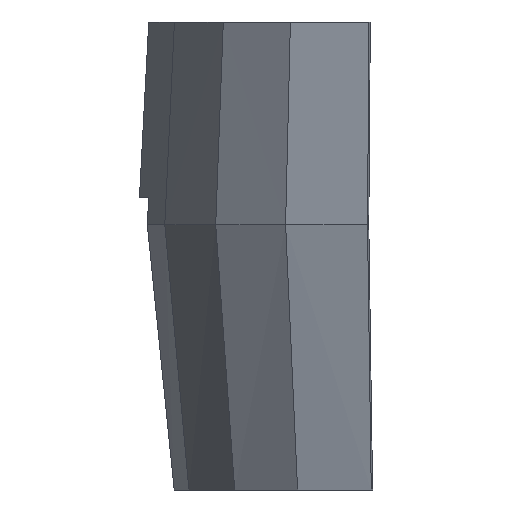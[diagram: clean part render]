
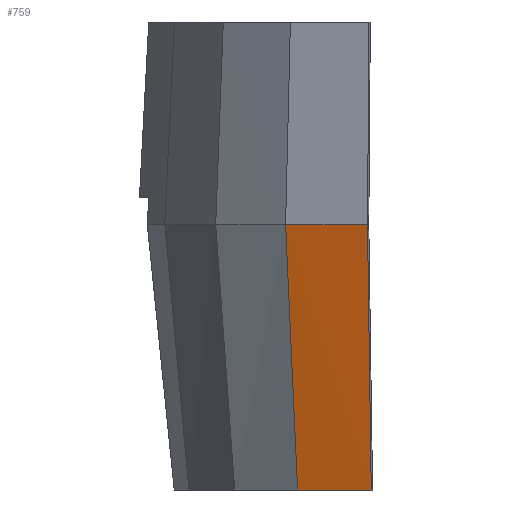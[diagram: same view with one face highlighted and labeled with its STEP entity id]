
A CAD part, left-side view. The second image highlights one B-rep face of the part: STEP entity #759.
In plain terms, the highlighted free-form (B-spline) face has degree [1, 1] with [2, 2] control points.
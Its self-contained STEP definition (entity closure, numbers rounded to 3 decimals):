
#32 = B_SPLINE_SURFACE_WITH_KNOTS('',1,1,(
    (#33,#34)
    ,(#35,#36
    )),.UNSPECIFIED.,.F.,.F.,.F.,(2,2),(2,2),(0.,32.332),(0.,1.
    ),.PIECEWISE_BEZIER_KNOTS.);
#33 = CARTESIAN_POINT('',(-159.852,13.361,-120.));
#34 = CARTESIAN_POINT('',(-163.813,13.917,-195.));
#35 = CARTESIAN_POINT('',(-148.856,42.418,-120.));
#36 = CARTESIAN_POINT('',(-152.445,44.185,-195.));
#56 = VERTEX_POINT('',#57);
#57 = CARTESIAN_POINT('',(-152.445,44.185,-195.));
#82 = EDGE_CURVE('',#83,#56,#85,.T.);
#83 = VERTEX_POINT('',#84);
#84 = CARTESIAN_POINT('',(-163.813,13.917,-195.));
#85 = SURFACE_CURVE('',#86,(#90,#97),.PCURVE_S1.);
#86 = LINE('',#87,#88);
#87 = CARTESIAN_POINT('',(-163.813,13.917,-195.));
#88 = VECTOR('',#89,1.);
#89 = DIRECTION('',(0.352,0.936,0.));
#90 = PCURVE('',#32,#91);
#91 = DEFINITIONAL_REPRESENTATION('',(#92),#96);
#92 = LINE('',#93,#94);
#93 = CARTESIAN_POINT('',(0.,1.));
#94 = VECTOR('',#95,1.);
#95 = DIRECTION('',(1.,0.));
#96 = ( GEOMETRIC_REPRESENTATION_CONTEXT(2) 
PARAMETRIC_REPRESENTATION_CONTEXT() REPRESENTATION_CONTEXT('2D SPACE',''
  ) );
#97 = PCURVE('',#98,#103);
#98 = B_SPLINE_SURFACE_WITH_KNOTS('',1,1,(
    (#99,#100)
    ,(#101,#102
    )),.UNSPECIFIED.,.F.,.F.,.F.,(2,2),(2,2),(0.,32.332),(0.,1.
    ),.PIECEWISE_BEZIER_KNOTS.);
#99 = CARTESIAN_POINT('',(-163.813,13.917,-195.));
#100 = CARTESIAN_POINT('',(-157.871,12.526,-293.));
#101 = CARTESIAN_POINT('',(-152.445,44.185,-195.));
#102 = CARTESIAN_POINT('',(-147.062,39.767,-293.));
#103 = DEFINITIONAL_REPRESENTATION('',(#104),#108);
#104 = LINE('',#105,#106);
#105 = CARTESIAN_POINT('',(0.,0.));
#106 = VECTOR('',#107,1.);
#107 = DIRECTION('',(1.,0.));
#108 = ( GEOMETRIC_REPRESENTATION_CONTEXT(2) 
PARAMETRIC_REPRESENTATION_CONTEXT() REPRESENTATION_CONTEXT('2D SPACE',''
  ) );
#747 = B_SPLINE_SURFACE_WITH_KNOTS('',1,1,(
    (#748,#749)
    ,(#750,#751
    )),.UNSPECIFIED.,.F.,.F.,.F.,(2,2),(2,2),(0.,34.159),(0.,1.)
  ,.PIECEWISE_BEZIER_KNOTS.);
#748 = CARTESIAN_POINT('',(-152.445,44.185,-195.));
#749 = CARTESIAN_POINT('',(-147.062,39.767,-293.));
#750 = CARTESIAN_POINT('',(-130.099,70.022,-195.));
#751 = CARTESIAN_POINT('',(-125.816,63.02,-293.));
#759 = ADVANCED_FACE('',(#760),#98,.T.);
#760 = FACE_BOUND('',#761,.T.);
#761 = EDGE_LOOP('',(#762,#763,#785,#812));
#762 = ORIENTED_EDGE('',*,*,#82,.T.);
#763 = ORIENTED_EDGE('',*,*,#764,.T.);
#764 = EDGE_CURVE('',#56,#765,#767,.T.);
#765 = VERTEX_POINT('',#766);
#766 = CARTESIAN_POINT('',(-147.062,39.767,-293.));
#767 = SURFACE_CURVE('',#768,(#771,#778),.PCURVE_S1.);
#768 = B_SPLINE_CURVE_WITH_KNOTS('',1,(#769,#770),.UNSPECIFIED.,.F.,.F.,
  (2,2),(0.,1.),.PIECEWISE_BEZIER_KNOTS.);
#769 = CARTESIAN_POINT('',(-152.445,44.185,-195.));
#770 = CARTESIAN_POINT('',(-147.062,39.767,-293.));
#771 = PCURVE('',#98,#772);
#772 = DEFINITIONAL_REPRESENTATION('',(#773),#777);
#773 = LINE('',#774,#775);
#774 = CARTESIAN_POINT('',(32.332,0.));
#775 = VECTOR('',#776,1.);
#776 = DIRECTION('',(0.,1.));
#777 = ( GEOMETRIC_REPRESENTATION_CONTEXT(2) 
PARAMETRIC_REPRESENTATION_CONTEXT() REPRESENTATION_CONTEXT('2D SPACE',''
  ) );
#778 = PCURVE('',#747,#779);
#779 = DEFINITIONAL_REPRESENTATION('',(#780),#784);
#780 = LINE('',#781,#782);
#781 = CARTESIAN_POINT('',(0.,0.));
#782 = VECTOR('',#783,1.);
#783 = DIRECTION('',(0.,1.));
#784 = ( GEOMETRIC_REPRESENTATION_CONTEXT(2) 
PARAMETRIC_REPRESENTATION_CONTEXT() REPRESENTATION_CONTEXT('2D SPACE',''
  ) );
#785 = ORIENTED_EDGE('',*,*,#786,.F.);
#786 = EDGE_CURVE('',#787,#765,#789,.T.);
#787 = VERTEX_POINT('',#788);
#788 = CARTESIAN_POINT('',(-157.871,12.526,-293.));
#789 = SURFACE_CURVE('',#790,(#794,#800),.PCURVE_S1.);
#790 = LINE('',#791,#792);
#791 = CARTESIAN_POINT('',(-157.871,12.526,-293.));
#792 = VECTOR('',#793,1.);
#793 = DIRECTION('',(0.369,0.93,0.));
#794 = PCURVE('',#98,#795);
#795 = DEFINITIONAL_REPRESENTATION('',(#796),#799);
#796 = B_SPLINE_CURVE_WITH_KNOTS('',1,(#797,#798),.UNSPECIFIED.,.F.,.F.,
  (2,2),(0.,29.307),.PIECEWISE_BEZIER_KNOTS.);
#797 = CARTESIAN_POINT('',(0.,1.));
#798 = CARTESIAN_POINT('',(32.332,1.));
#799 = ( GEOMETRIC_REPRESENTATION_CONTEXT(2) 
PARAMETRIC_REPRESENTATION_CONTEXT() REPRESENTATION_CONTEXT('2D SPACE',''
  ) );
#800 = PCURVE('',#801,#806);
#801 = PLANE('',#802);
#802 = AXIS2_PLACEMENT_3D('',#803,#804,#805);
#803 = CARTESIAN_POINT('',(-157.871,12.526,-293.));
#804 = DIRECTION('',(-0.,0.,1.));
#805 = DIRECTION('',(1.,0.,0.));
#806 = DEFINITIONAL_REPRESENTATION('',(#807),#811);
#807 = LINE('',#808,#809);
#808 = CARTESIAN_POINT('',(0.,0.));
#809 = VECTOR('',#810,1.);
#810 = DIRECTION('',(0.369,0.93));
#811 = ( GEOMETRIC_REPRESENTATION_CONTEXT(2) 
PARAMETRIC_REPRESENTATION_CONTEXT() REPRESENTATION_CONTEXT('2D SPACE',''
  ) );
#812 = ORIENTED_EDGE('',*,*,#813,.F.);
#813 = EDGE_CURVE('',#83,#787,#814,.T.);
#814 = SURFACE_CURVE('',#815,(#818,#825),.PCURVE_S1.);
#815 = B_SPLINE_CURVE_WITH_KNOTS('',1,(#816,#817),.UNSPECIFIED.,.F.,.F.,
  (2,2),(0.,1.),.PIECEWISE_BEZIER_KNOTS.);
#816 = CARTESIAN_POINT('',(-163.813,13.917,-195.));
#817 = CARTESIAN_POINT('',(-157.871,12.526,-293.));
#818 = PCURVE('',#98,#819);
#819 = DEFINITIONAL_REPRESENTATION('',(#820),#824);
#820 = LINE('',#821,#822);
#821 = CARTESIAN_POINT('',(0.,0.));
#822 = VECTOR('',#823,1.);
#823 = DIRECTION('',(0.,1.));
#824 = ( GEOMETRIC_REPRESENTATION_CONTEXT(2) 
PARAMETRIC_REPRESENTATION_CONTEXT() REPRESENTATION_CONTEXT('2D SPACE',''
  ) );
#825 = PCURVE('',#826,#831);
#826 = B_SPLINE_SURFACE_WITH_KNOTS('',1,1,(
    (#827,#828)
    ,(#829,#830
  )),.UNSPECIFIED.,.F.,.F.,.F.,(2,2),(2,2),(0.,3.5),(0.,1.),
  .PIECEWISE_BEZIER_KNOTS.);
#827 = CARTESIAN_POINT('',(-160.347,13.43,-195.));
#828 = CARTESIAN_POINT('',(-154.405,12.038,-293.));
#829 = CARTESIAN_POINT('',(-163.813,13.917,-195.));
#830 = CARTESIAN_POINT('',(-157.871,12.526,-293.));
#831 = DEFINITIONAL_REPRESENTATION('',(#832),#836);
#832 = LINE('',#833,#834);
#833 = CARTESIAN_POINT('',(3.5,0.));
#834 = VECTOR('',#835,1.);
#835 = DIRECTION('',(0.,1.));
#836 = ( GEOMETRIC_REPRESENTATION_CONTEXT(2) 
PARAMETRIC_REPRESENTATION_CONTEXT() REPRESENTATION_CONTEXT('2D SPACE',''
  ) );
